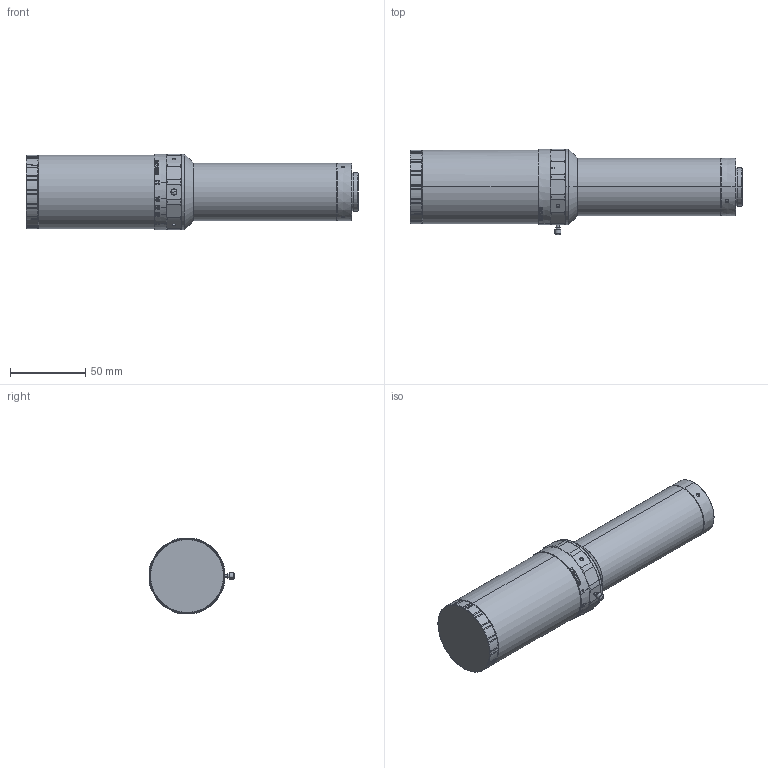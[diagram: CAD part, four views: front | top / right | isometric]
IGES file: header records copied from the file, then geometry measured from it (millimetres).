
Start section: SolidWorks IGES file using analytic representation for surfaces
Global section: file name: 17HF:\A负责系列\DTCA\A基于EDM系统的DTCA\DTCA121-6.6-110(DTCA121-5-110镜片，新加工2片)\发客户3d\APO-DTCA121-6.6-110-G.IGS; native system: SolidWorks 2017; preprocessor: SolidWorks 2017; author: 16255; date: 250313.090445; units: millimetre
Bounding box: 220.14 x 56.67 x 50 mm (x, y, z)
Surface area: 34021.3 mm2 (no closed solid volume)
Topology: 0 solids, 0 shells, 472 faces, 5196 edges, 5196 vertices
Faces by surface type: bspline 255, revolution 217
